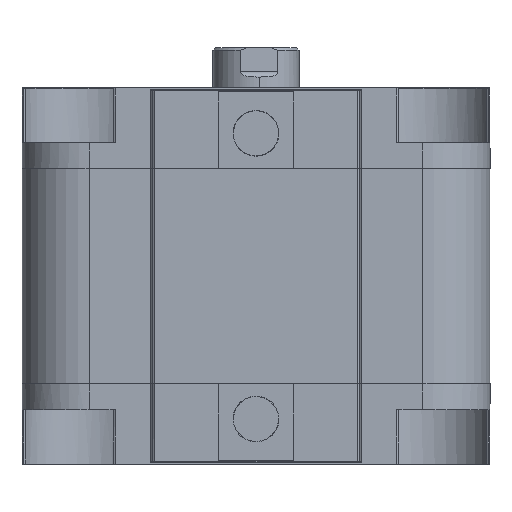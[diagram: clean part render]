
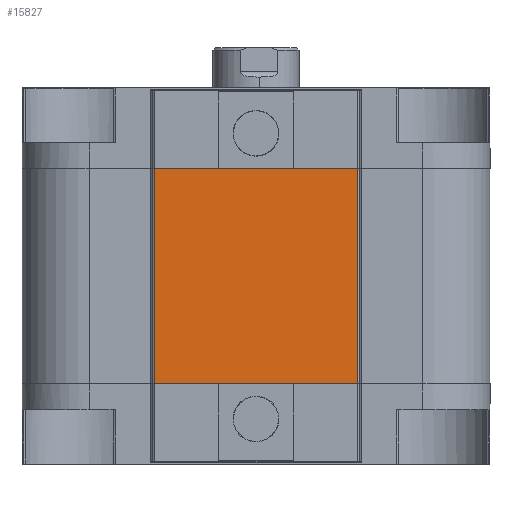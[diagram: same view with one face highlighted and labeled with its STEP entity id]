
A CAD part, front view. The second image highlights one B-rep face of the part: STEP entity #15827.
In plain terms, the highlighted planar face has unit normal (0, -1, 0).
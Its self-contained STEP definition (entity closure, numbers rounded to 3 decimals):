
#239 = CARTESIAN_POINT ( 'NONE',  ( -18.838, -47.5, 0. ) ) ;
#976 = VERTEX_POINT ( 'NONE', #15862 ) ;
#1738 = DIRECTION ( 'NONE',  ( 1., 0., 0. ) ) ;
#2547 = EDGE_LOOP ( 'NONE', ( #19908, #19192, #18494, #17891 ) ) ;
#3563 = VERTEX_POINT ( 'NONE', #239 ) ;
#3613 = CARTESIAN_POINT ( 'NONE',  ( -18.838, -47.5, -20. ) ) ;
#4158 = CARTESIAN_POINT ( 'NONE',  ( 18.838, -47.5, -40. ) ) ;
#5782 = AXIS2_PLACEMENT_3D ( 'NONE', #20917, #10290, #22696 ) ;
#6158 = EDGE_CURVE ( 'NONE', #3563, #7236, #16776, .T. ) ;
#7236 = VERTEX_POINT ( 'NONE', #8595 ) ;
#8337 = PLANE ( 'NONE',  #5782 ) ;
#8595 = CARTESIAN_POINT ( 'NONE',  ( 18.838, -47.5, 0. ) ) ;
#10290 = DIRECTION ( 'NONE',  ( 0., 1., 0. ) ) ;
#10784 = EDGE_CURVE ( 'NONE', #976, #3563, #11090, .T. ) ;
#11090 = LINE ( 'NONE', #3613, #15273 ) ;
#12488 = CARTESIAN_POINT ( 'NONE',  ( -43.5, -47.5, 0. ) ) ;
#12813 = LINE ( 'NONE', #22997, #22219 ) ;
#13688 = VERTEX_POINT ( 'NONE', #4158 ) ;
#14270 = DIRECTION ( 'NONE',  ( 1., 0., 0. ) ) ;
#15273 = VECTOR ( 'NONE', #19582, 1000. ) ;
#15677 = VECTOR ( 'NONE', #14270, 1000. ) ;
#15827 = ADVANCED_FACE ( 'NONE', ( #22504 ), #8337, .F. ) ;
#15862 = CARTESIAN_POINT ( 'NONE',  ( -18.838, -47.5, -40. ) ) ;
#16242 = EDGE_CURVE ( 'NONE', #7236, #13688, #18043, .T. ) ;
#16271 = EDGE_CURVE ( 'NONE', #976, #13688, #12813, .T. ) ;
#16776 = LINE ( 'NONE', #12488, #15677 ) ;
#17891 = ORIENTED_EDGE ( 'NONE', *, *, #6158, .F. ) ;
#18043 = LINE ( 'NONE', #19242, #18591 ) ;
#18494 = ORIENTED_EDGE ( 'NONE', *, *, #16242, .F. ) ;
#18591 = VECTOR ( 'NONE', #22910, 1000. ) ;
#19192 = ORIENTED_EDGE ( 'NONE', *, *, #16271, .T. ) ;
#19242 = CARTESIAN_POINT ( 'NONE',  ( 18.838, -47.5, -20. ) ) ;
#19582 = DIRECTION ( 'NONE',  ( 0., 0., 1. ) ) ;
#19908 = ORIENTED_EDGE ( 'NONE', *, *, #10784, .F. ) ;
#20917 = CARTESIAN_POINT ( 'NONE',  ( -18.838, -47.5, -40. ) ) ;
#22219 = VECTOR ( 'NONE', #1738, 1000. ) ;
#22504 = FACE_OUTER_BOUND ( 'NONE', #2547, .T. ) ;
#22696 = DIRECTION ( 'NONE',  ( 0., 0., 1. ) ) ;
#22910 = DIRECTION ( 'NONE',  ( 0., 0., -1. ) ) ;
#22997 = CARTESIAN_POINT ( 'NONE',  ( -18.838, -47.5, -40. ) ) ;
